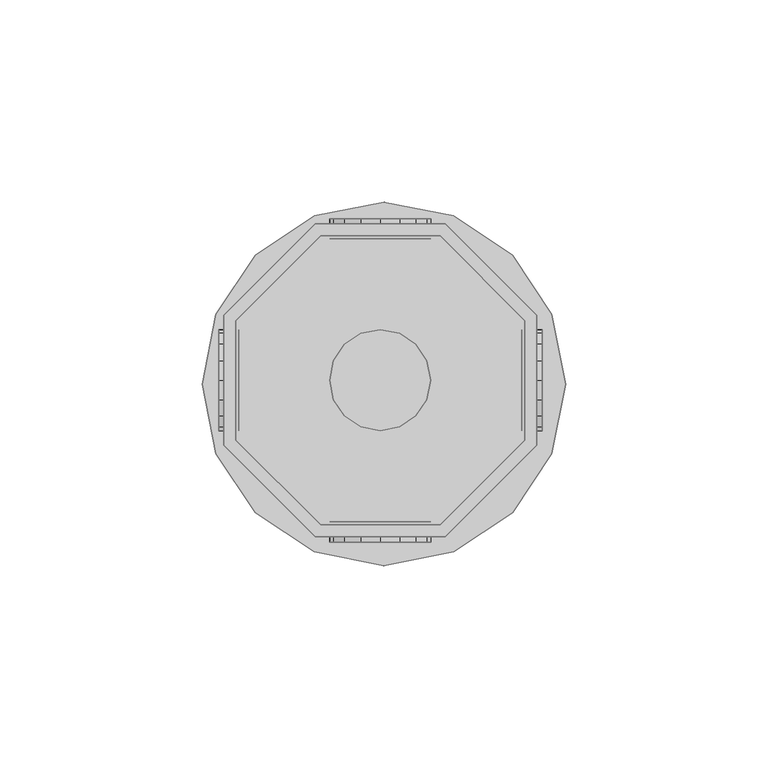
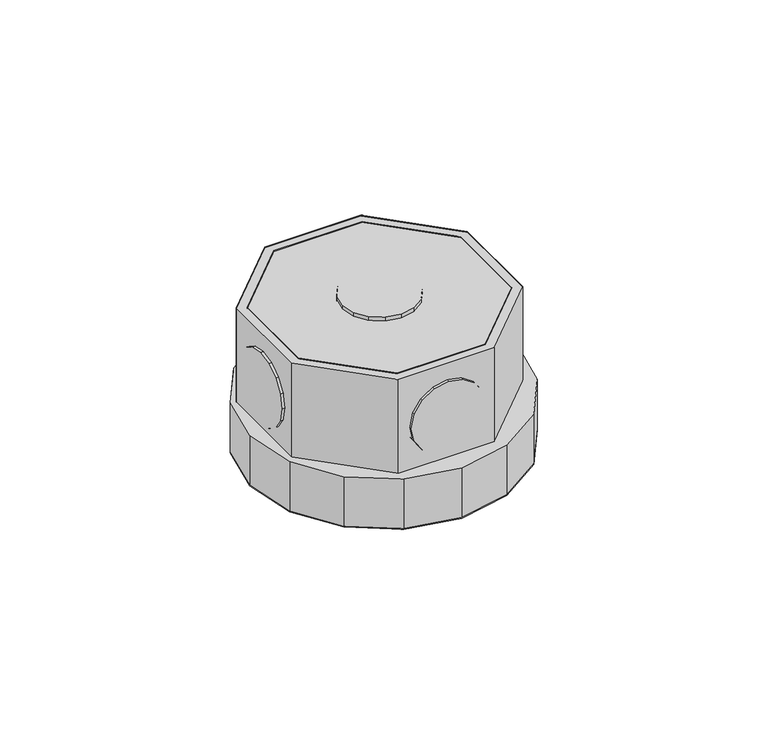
"""IFC4 building model written with IfcOpenShell, lengths in millimetres: light fixture geometry,  212810 :  212810."""

from ifc_helpers import new_model, si_unit, origin, place, context, project, spatial, triangles, source, transform, mapped, element, save


def light_fixture_ed873359(model_context):
    return source(origin(), model_context, "Body", "Tessellation", [
        triangles([(22344.998877, 10957.9997406, 2924.5999741), (22315.4006836, 10957.9997406, 2975.400071), (22315.4006836, 10957.9997406, 2924.5999741), (22344.998877, 10957.9997406, 2975.400071), (22346.2011292, 10883.4996368, 2924.5999741), (22314.1007629, 10883.4996368, 2975.400071), (22314.1007629, 10883.4996368, 2924.5999741), (22346.2011292, 10883.4996368, 2975.400071), (22294.3996399, 10936.9998596, 2975.400071), (22294.3996399, 10936.9998596, 2924.5999741), (22368.8997437, 10906.2005768, 2924.5999741), (22368.8997437, 10906.2005768, 2975.400071), (22294.3996399, 10907.4005035, 2975.400071), (22294.3996399, 10907.4005035, 2924.5999741), (22368.8997437, 10938.2997803, 2924.5999741), (22368.8997437, 10938.2997803, 2975.400071), (22315.4006836, 10886.4994537, 2975.400071), (22315.4006836, 10886.4994537, 2924.5999741), (22346.2011292, 10960.9995575, 2924.5999741), (22346.2011292, 10960.9995575, 2975.400071), (22344.998877, 10886.4994537, 2924.5999741), (22344.998877, 10886.4994537, 2975.400071), (22314.1007629, 10960.9995575, 2975.400071), (22314.1007629, 10960.9995575, 2924.5999741), (22365.8999268, 10907.4005035, 2924.5999741), (22365.8999268, 10907.4005035, 2975.400071), (22291.399823, 10938.2997803, 2975.400071), (22291.399823, 10938.2997803, 2924.5999741), (22291.399823, 10906.2005768, 2975.400071), (22365.8999268, 10936.9998596, 2975.400071), (22365.8999268, 10936.9998596, 2924.5999741), (22291.399823, 10906.2005768, 2924.5999741), (22294.3996399, 10907.4005035, 2972.3999634), (22315.4006836, 10886.4994537, 2972.3999634), (22344.998877, 10886.4994537, 2972.3999634), (22365.8999268, 10907.4005035, 2972.3999634), (22365.8999268, 10936.9998596, 2972.3999634), (22344.998877, 10957.9997406, 2972.3999634), (22315.4006836, 10957.9997406, 2972.3999634), (22294.3996399, 10936.9998596, 2972.3999634), (22291.399823, 10938.2997803, 2942.4000504), (22314.1007629, 10960.9995575, 2942.4000504), (22346.2011292, 10960.9995575, 2942.4000504), (22368.8997437, 10938.2997803, 2942.4000504), (22368.8997437, 10906.2005768, 2942.4000504), (22346.2011292, 10883.4996368, 2942.4000504), (22314.1007629, 10883.4996368, 2942.4000504), (22291.399823, 10906.2005768, 2942.4000504), (22313.8007812, 10879.7998627, 2942.4000504), (22289.499939, 10904.0995422, 2942.4000504), (22299.1993469, 10889.5004333, 2942.4000504), (22286.1001465, 10921.2996552, 2942.4000504), (22289.499939, 10938.599762, 2942.4000504), (22299.1993469, 10953.2000336, 2942.4000504), (22313.8007812, 10962.8994415, 2942.4000504), (22331.0997253, 10966.3003967, 2942.4000504), (22348.301001, 10962.8994415, 2942.4000504), (22372.5995178, 10938.599762, 2942.4000504), (22362.9001099, 10953.2000336, 2942.4000504), (22331.0997253, 10876.3000763, 2942.4000504), (22348.301001, 10879.7998627, 2942.4000504), (22362.9001099, 10889.5004333, 2942.4000504), (22372.5995178, 10904.0995422, 2942.4000504), (22376.0993042, 10921.2996552, 2942.4000504), (22289.499939, 10904.0995422, 2924.5999741), (22313.8007812, 10879.7998627, 2924.5999741), (22299.1993469, 10889.5004333, 2924.5999741), (22286.1001465, 10921.2996552, 2924.5999741), (22289.499939, 10938.599762, 2924.5999741), (22299.1993469, 10953.2000336, 2924.5999741), (22313.8007812, 10962.8994415, 2924.5999741), (22331.0997253, 10966.3003967, 2924.5999741), (22348.301001, 10962.8994415, 2924.5999741), (22372.5995178, 10938.599762, 2924.5999741), (22362.9001099, 10953.2000336, 2924.5999741), (22331.0997253, 10876.3000763, 2924.5999741), (22348.301001, 10879.7998627, 2924.5999741), (22362.9001099, 10889.5004333, 2924.5999741), (22372.5995178, 10904.0995422, 2924.5999741), (22376.0993042, 10921.2996552, 2924.5999741), (22318.6004883, 10962.1994843, 2952.6000092), (22325.4000732, 10962.1994843, 2945.9001274), (22321.3003235, 10962.1994843, 2948.5999626), (22317.7005432, 10962.1994843, 2957.4000069), (22330.1997803, 10962.1994843, 2944.8998978), (22318.6004883, 10962.1994843, 2962.2000046), (22334.9994873, 10962.1994843, 2945.9001274), (22321.3003235, 10962.1994843, 2966.2000511), (22338.9992432, 10962.1994843, 2948.5999626), (22325.4000732, 10962.1994843, 2968.8998863), (22341.6990784, 10962.1994843, 2952.6000092), (22330.1997803, 10962.1994843, 2969.900116), (22342.6990173, 10962.1994843, 2957.4000069), (22334.9994873, 10962.1994843, 2968.8998863), (22341.6990784, 10962.1994843, 2962.2000046), (22338.9992432, 10962.1994843, 2966.2000511), (22325.4000732, 10957.1997894, 2945.9001274), (22318.6004883, 10957.1997894, 2952.6000092), (22321.3003235, 10957.1997894, 2948.5999626), (22330.1997803, 10957.1997894, 2944.8998978), (22317.7005432, 10957.1997894, 2957.4000069), (22334.9994873, 10957.1997894, 2945.9001274), (22318.6004883, 10957.1997894, 2962.2000046), (22338.9992432, 10957.1997894, 2948.5999626), (22321.3003235, 10957.1997894, 2966.2000511), (22325.4000732, 10957.1997894, 2968.8998863), (22341.6990784, 10957.1997894, 2952.6000092), (22330.1997803, 10957.1997894, 2969.900116), (22342.6990173, 10957.1997894, 2957.4000069), (22334.9994873, 10957.1997894, 2968.8998863), (22341.6990784, 10957.1997894, 2962.2000046), (22338.9992432, 10957.1997894, 2966.2000511), (22318.6004883, 10887.2005737, 2952.6000092), (22325.4000732, 10887.2005737, 2945.9001274), (22321.3003235, 10887.2005737, 2948.5999626), (22317.7005432, 10887.2005737, 2957.4000069), (22330.1997803, 10887.2005737, 2944.8998978), (22318.6004883, 10887.2005737, 2962.2000046), (22334.9994873, 10887.2005737, 2945.9001274), (22321.3003235, 10887.2005737, 2966.2000511), (22338.9992432, 10887.2005737, 2948.5999626), (22325.4000732, 10887.2005737, 2968.8998863), (22341.6990784, 10887.2005737, 2952.6000092), (22330.1997803, 10887.2005737, 2969.900116), (22342.6990173, 10887.2005737, 2957.4000069), (22334.9994873, 10887.2005737, 2968.8998863), (22341.6990784, 10887.2005737, 2962.2000046), (22338.9992432, 10887.2005737, 2966.2000511), (22325.4000732, 10882.1997162, 2945.9001274), (22318.6004883, 10882.1997162, 2952.6000092), (22321.3003235, 10882.1997162, 2948.5999626), (22330.1997803, 10882.1997162, 2944.8998978), (22317.7005432, 10882.1997162, 2957.4000069), (22334.9994873, 10882.1997162, 2945.9001274), (22318.6004883, 10882.1997162, 2962.2000046), (22338.9992432, 10882.1997162, 2948.5999626), (22321.3003235, 10882.1997162, 2966.2000511), (22325.4000732, 10882.1997162, 2968.8998863), (22341.6990784, 10882.1997162, 2952.6000092), (22330.1997803, 10882.1997162, 2969.900116), (22342.6990173, 10882.1997162, 2957.4000069), (22334.9994873, 10882.1997162, 2968.8998863), (22341.6990784, 10882.1997162, 2962.2000046), (22338.9992432, 10882.1997162, 2966.2000511), (22295.1995911, 10917.3998932, 2945.9001274), (22295.1995911, 10910.7003021, 2952.6000092), (22295.1995911, 10913.4001373, 2948.5999626), (22295.1995911, 10922.1996002, 2944.8998978), (22295.1995911, 10909.7003632, 2957.4000069), (22295.1995911, 10927.00047, 2945.9001274), (22295.1995911, 10910.7003021, 2962.2000046), (22295.1995911, 10931.1002197, 2948.5999626), (22295.1995911, 10913.4001373, 2966.2000511), (22295.1995911, 10917.3998932, 2968.8998863), (22295.1995911, 10933.8000549, 2952.6000092), (22295.1995911, 10922.1996002, 2969.900116), (22295.1995911, 10934.7, 2957.4000069), (22295.1995911, 10927.00047, 2968.8998863), (22295.1995911, 10933.8000549, 2962.2000046), (22295.1995911, 10931.1002197, 2966.2000511), (22290.1998962, 10910.7003021, 2952.6000092), (22290.1998962, 10917.3998932, 2945.9001274), (22290.1998962, 10913.4001373, 2948.5999626), (22290.1998962, 10909.7003632, 2957.4000069), (22290.1998962, 10922.1996002, 2944.8998978), (22290.1998962, 10910.7003021, 2962.2000046), (22290.1998962, 10927.00047, 2945.9001274), (22290.1998962, 10913.4001373, 2966.2000511), (22290.1998962, 10931.1002197, 2948.5999626), (22290.1998962, 10917.3998932, 2968.8998863), (22290.1998962, 10933.8000549, 2952.6000092), (22290.1998962, 10922.1996002, 2969.900116), (22290.1998962, 10934.7, 2957.4000069), (22290.1998962, 10927.00047, 2968.8998863), (22290.1998962, 10933.8000549, 2962.2000046), (22290.1998962, 10931.1002197, 2966.2000511), (22370.1996643, 10917.3998932, 2945.9001274), (22370.1996643, 10910.7003021, 2952.6000092), (22370.1996643, 10913.4001373, 2948.5999626), (22370.1996643, 10922.1996002, 2944.8998978), (22370.1996643, 10909.7003632, 2957.4000069), (22370.1996643, 10927.00047, 2945.9001274), (22370.1996643, 10910.7003021, 2962.2000046), (22370.1996643, 10931.1002197, 2948.5999626), (22370.1996643, 10913.4001373, 2966.2000511), (22370.1996643, 10917.3998932, 2968.8998863), (22370.1996643, 10933.8000549, 2952.6000092), (22370.1996643, 10922.1996002, 2969.900116), (22370.1996643, 10934.7, 2957.4000069), (22370.1996643, 10927.00047, 2968.8998863), (22370.1996643, 10933.8000549, 2962.2000046), (22370.1996643, 10931.1002197, 2966.2000511), (22365.1999695, 10910.7003021, 2952.6000092), (22365.1999695, 10917.3998932, 2945.9001274), (22365.1999695, 10913.4001373, 2948.5999626), (22365.1999695, 10909.7003632, 2957.4000069), (22365.1999695, 10922.1996002, 2944.8998978), (22365.1999695, 10910.7003021, 2962.2000046), (22365.1999695, 10927.00047, 2945.9001274), (22365.1999695, 10913.4001373, 2966.2000511), (22365.1999695, 10931.1002197, 2948.5999626), (22365.1999695, 10917.3998932, 2968.8998863), (22365.1999695, 10933.8000549, 2952.6000092), (22365.1999695, 10922.1996002, 2969.900116), (22365.1999695, 10934.7, 2957.4000069), (22365.1999695, 10927.00047, 2968.8998863), (22365.1999695, 10933.8000549, 2962.2000046), (22365.1999695, 10931.1002197, 2966.2000511), (22325.4000732, 10910.7003021, 2976.9999733), (22318.6004883, 10917.3998932, 2976.9999733), (22321.3003235, 10913.4001373, 2976.9999733), (22317.7005432, 10922.1996002, 2976.9999733), (22330.1997803, 10909.7003632, 2976.9999733), (22318.6004883, 10927.00047, 2976.9999733), (22334.9994873, 10910.7003021, 2976.9999733), (22321.3003235, 10931.1002197, 2976.9999733), (22338.9992432, 10913.4001373, 2976.9999733), (22325.4000732, 10933.8000549, 2976.9999733), (22341.6990784, 10917.3998932, 2976.9999733), (22330.1997803, 10934.7, 2976.9999733), (22342.6990173, 10922.1996002, 2976.9999733), (22334.9994873, 10933.8000549, 2976.9999733), (22341.6990784, 10927.00047, 2976.9999733), (22338.9992432, 10931.1002197, 2976.9999733), (22318.6004883, 10917.3998932, 2971.9999878), (22325.4000732, 10910.7003021, 2971.9999878), (22321.3003235, 10913.4001373, 2971.9999878), (22317.7005432, 10922.1996002, 2971.9999878), (22330.1997803, 10909.7003632, 2971.9999878), (22318.6004883, 10927.00047, 2971.9999878), (22334.9994873, 10910.7003021, 2971.9999878), (22321.3003235, 10931.1002197, 2971.9999878), (22338.9992432, 10913.4001373, 2971.9999878), (22325.4000732, 10933.8000549, 2971.9999878), (22341.6990784, 10917.3998932, 2971.9999878), (22330.1997803, 10934.7, 2971.9999878), (22342.6990173, 10922.1996002, 2971.9999878), (22334.9994873, 10933.8000549, 2971.9999878), (22341.6990784, 10927.00047, 2971.9999878), (22338.9992432, 10931.1002197, 2971.9999878)], [[1, 2, 3], [2, 1, 4], [5, 6, 7], [6, 5, 8], [3, 9, 10], [9, 3, 2], [11, 8, 5], [8, 11, 12], [10, 13, 14], [13, 10, 9], [15, 12, 11], [12, 15, 16], [14, 17, 18], [17, 14, 13], [19, 16, 15], [16, 19, 20], [17, 21, 18], [21, 17, 22], [23, 19, 24], [19, 23, 20], [22, 25, 21], [25, 22, 26], [27, 24, 28], [24, 27, 23], [6, 13, 29], [29, 13, 27], [27, 13, 9], [27, 9, 23], [23, 9, 2], [23, 2, 4], [23, 4, 20], [20, 4, 30], [8, 17, 6], [6, 17, 13], [17, 8, 22], [12, 22, 8], [22, 12, 26], [30, 26, 12], [16, 30, 12], [20, 30, 16], [30, 1, 31], [1, 30, 4], [6, 32, 7], [32, 6, 29], [32, 14, 7], [28, 14, 32], [14, 28, 10], [24, 10, 28], [10, 24, 3], [1, 3, 24], [19, 1, 24], [31, 1, 19], [7, 18, 5], [14, 18, 7], [5, 18, 21], [5, 21, 11], [11, 21, 25], [11, 25, 31], [11, 31, 15], [15, 31, 19], [26, 31, 25], [31, 26, 30], [29, 28, 32], [28, 29, 27], [17, 33, 34], [33, 17, 13], [35, 17, 34], [17, 35, 22], [36, 22, 35], [22, 36, 26], [37, 26, 36], [26, 37, 30], [38, 30, 37], [30, 38, 4], [2, 38, 39], [38, 2, 4], [17, 9, 13], [9, 17, 22], [9, 22, 2], [2, 22, 26], [2, 26, 4], [4, 26, 30], [13, 40, 33], [40, 13, 9], [40, 34, 33], [35, 34, 40], [35, 40, 39], [35, 39, 36], [36, 39, 38], [36, 38, 37], [9, 39, 40], [39, 9, 2], [24, 41, 28], [41, 24, 42], [19, 42, 24], [42, 19, 43], [44, 19, 15], [19, 44, 43], [45, 15, 11], [15, 45, 44], [46, 11, 5], [11, 46, 45], [47, 5, 7], [5, 47, 46], [32, 47, 7], [47, 32, 48], [28, 48, 32], [48, 28, 41], [49, 50, 51], [48, 50, 49], [50, 48, 52], [41, 52, 48], [52, 41, 53], [53, 41, 54], [42, 54, 41], [54, 42, 55], [55, 42, 43], [55, 43, 56], [56, 43, 57], [57, 43, 44], [57, 44, 58], [57, 58, 59], [47, 49, 60], [49, 47, 48], [47, 60, 46], [61, 46, 60], [46, 61, 62], [46, 62, 45], [45, 62, 63], [44, 45, 63], [44, 63, 64], [44, 64, 58], [65, 66, 67], [66, 65, 32], [68, 32, 65], [32, 68, 28], [28, 68, 69], [70, 28, 69], [28, 70, 24], [71, 24, 70], [19, 24, 71], [19, 71, 72], [73, 19, 72], [19, 73, 15], [74, 15, 73], [74, 73, 75], [76, 66, 7], [32, 7, 66], [5, 76, 7], [76, 5, 77], [77, 5, 78], [11, 78, 5], [78, 11, 79], [79, 11, 15], [79, 15, 80], [80, 15, 74], [57, 75, 73], [75, 57, 59], [56, 73, 72], [73, 56, 57], [55, 72, 71], [72, 55, 56], [54, 71, 70], [71, 54, 55], [53, 70, 69], [70, 53, 54], [52, 69, 68], [69, 52, 53], [50, 68, 65], [68, 50, 52], [51, 65, 67], [65, 51, 50], [66, 51, 67], [51, 66, 49], [76, 49, 66], [49, 76, 60], [77, 60, 76], [60, 77, 61], [78, 61, 77], [61, 78, 62], [79, 62, 78], [62, 79, 63], [80, 63, 79], [63, 80, 64], [75, 58, 74], [58, 75, 59], [74, 64, 80], [64, 74, 58], [81, 82, 83], [82, 81, 84], [85, 82, 84], [85, 84, 86], [87, 85, 86], [87, 86, 88], [87, 88, 89], [89, 88, 90], [89, 90, 91], [91, 90, 92], [91, 92, 93], [93, 92, 94], [93, 94, 95], [95, 94, 96], [97, 98, 99], [98, 97, 100], [101, 98, 100], [101, 100, 102], [103, 101, 102], [103, 102, 104], [103, 104, 105], [105, 104, 106], [106, 104, 107], [106, 107, 108], [108, 107, 109], [108, 109, 110], [110, 109, 111], [110, 111, 112], [87, 104, 102], [104, 87, 89], [85, 102, 100], [102, 85, 87], [82, 100, 97], [100, 82, 85], [83, 97, 99], [97, 83, 82], [98, 83, 99], [83, 98, 81], [101, 81, 98], [81, 101, 84], [103, 84, 101], [84, 103, 86], [105, 86, 103], [86, 105, 88], [106, 88, 105], [88, 106, 90], [108, 90, 106], [90, 108, 92], [110, 92, 108], [92, 110, 94], [112, 94, 110], [94, 112, 96], [95, 112, 111], [112, 95, 96], [93, 111, 109], [111, 93, 95], [89, 107, 104], [107, 89, 91], [91, 109, 107], [109, 91, 93], [113, 114, 115], [114, 113, 116], [117, 114, 116], [117, 116, 118], [119, 117, 118], [119, 118, 120], [119, 120, 121], [121, 120, 122], [121, 122, 123], [123, 122, 124], [123, 124, 125], [125, 124, 126], [125, 126, 127], [127, 126, 128], [129, 130, 131], [130, 129, 132], [133, 130, 132], [133, 132, 134], [135, 133, 134], [135, 134, 136], [135, 136, 137], [137, 136, 138], [138, 136, 139], [138, 139, 140], [140, 139, 141], [140, 141, 142], [142, 141, 143], [142, 143, 144], [119, 136, 134], [136, 119, 121], [117, 134, 132], [134, 117, 119], [114, 132, 129], [132, 114, 117], [115, 129, 131], [129, 115, 114], [130, 115, 131], [115, 130, 113], [133, 113, 130], [113, 133, 116], [135, 116, 133], [116, 135, 118], [137, 118, 135], [118, 137, 120], [138, 120, 137], [120, 138, 122], [140, 122, 138], [122, 140, 124], [142, 124, 140], [124, 142, 126], [144, 126, 142], [126, 144, 128], [127, 144, 143], [144, 127, 128], [125, 143, 141], [143, 125, 127], [121, 139, 136], [139, 121, 123], [123, 141, 139], [141, 123, 125], [145, 146, 147], [146, 145, 148], [149, 146, 148], [149, 148, 150], [151, 149, 150], [151, 150, 152], [151, 152, 153], [153, 152, 154], [154, 152, 155], [154, 155, 156], [156, 155, 157], [156, 157, 158], [158, 157, 159], [158, 159, 160], [161, 162, 163], [162, 161, 164], [165, 162, 164], [165, 164, 166], [167, 165, 166], [167, 166, 168], [169, 167, 168], [169, 168, 170], [169, 170, 171], [171, 170, 172], [171, 172, 173], [173, 172, 174], [173, 174, 175], [175, 174, 176], [158, 176, 174], [176, 158, 160], [156, 174, 172], [174, 156, 158], [154, 172, 170], [172, 154, 156], [153, 170, 168], [170, 153, 154], [151, 168, 166], [168, 151, 153], [149, 166, 164], [166, 149, 151], [146, 164, 161], [164, 146, 149], [147, 161, 163], [161, 147, 146], [162, 147, 163], [147, 162, 145], [165, 145, 162], [145, 165, 148], [167, 148, 165], [148, 167, 150], [169, 150, 167], [150, 169, 152], [171, 152, 169], [152, 171, 155], [173, 155, 171], [155, 173, 157], [176, 159, 175], [159, 176, 160], [175, 157, 173], [157, 175, 159], [177, 178, 179], [178, 177, 180], [181, 178, 180], [181, 180, 182], [183, 181, 182], [183, 182, 184], [183, 184, 185], [185, 184, 186], [186, 184, 187], [186, 187, 188], [188, 187, 189], [188, 189, 190], [190, 189, 191], [190, 191, 192], [193, 194, 195], [194, 193, 196], [197, 194, 196], [197, 196, 198], [199, 197, 198], [199, 198, 200], [201, 199, 200], [201, 200, 202], [201, 202, 203], [203, 202, 204], [203, 204, 205], [205, 204, 206], [205, 206, 207], [207, 206, 208], [190, 208, 206], [208, 190, 192], [188, 206, 204], [206, 188, 190], [186, 204, 202], [204, 186, 188], [185, 202, 200], [202, 185, 186], [183, 200, 198], [200, 183, 185], [181, 198, 196], [198, 181, 183], [178, 196, 193], [196, 178, 181], [179, 193, 195], [193, 179, 178], [194, 179, 195], [179, 194, 177], [197, 177, 194], [177, 197, 180], [199, 180, 197], [180, 199, 182], [201, 182, 199], [182, 201, 184], [203, 184, 201], [184, 203, 187], [205, 187, 203], [187, 205, 189], [208, 191, 207], [191, 208, 192], [207, 189, 205], [189, 207, 191], [209, 210, 211], [212, 210, 209], [212, 209, 213], [214, 212, 213], [214, 213, 215], [216, 214, 215], [216, 215, 217], [216, 217, 218], [218, 217, 219], [218, 219, 220], [220, 219, 221], [220, 221, 222], [222, 221, 223], [222, 223, 224], [225, 226, 227], [226, 225, 228], [229, 226, 228], [229, 228, 230], [231, 229, 230], [231, 230, 232], [231, 232, 233], [233, 232, 234], [233, 234, 235], [235, 234, 236], [235, 236, 237], [237, 236, 238], [237, 238, 239], [239, 238, 240], [222, 240, 238], [240, 222, 224], [220, 238, 236], [238, 220, 222], [218, 236, 234], [236, 218, 220], [216, 234, 232], [234, 216, 218], [214, 232, 230], [232, 214, 216], [212, 230, 228], [230, 212, 214], [210, 228, 225], [228, 210, 212], [211, 225, 227], [225, 211, 210], [226, 211, 227], [211, 226, 209], [229, 209, 226], [209, 229, 213], [231, 213, 229], [213, 231, 215], [233, 215, 231], [215, 233, 217], [235, 217, 233], [217, 235, 219], [237, 219, 235], [219, 237, 221], [240, 223, 239], [223, 240, 224], [239, 221, 237], [221, 239, 223]], closed=False),
    ])


if __name__ == "__main__":
    model = new_model("IFC4")
    model_context = context("Model", 3, world=origin())
    ifc_project = project(units=[si_unit("LENGTHUNIT", "METRE", prefix="MILLI")], contexts=[model_context])
    site = spatial("IfcSite", under=ifc_project)
    building = spatial("IfcBuilding", under=site)
    placement = place(None, origin())
    light_fixture_shape = light_fixture_ed873359(model_context)
    element("IfcLightFixture", 1, ObjectType=" 212810 :  212810", at=placement, inside=building, context=model_context, shape_type="MappedRepresentation", body=[
        mapped(light_fixture_shape, transform((0.0, 0.0, 0.0), x_axis=(1.0, 0.0, 0.0), y_axis=(0.0, 1.0, 0.0), z_axis=(0.0, 0.0, 1.0))),
    ])
    save(model, "model.ifc")
